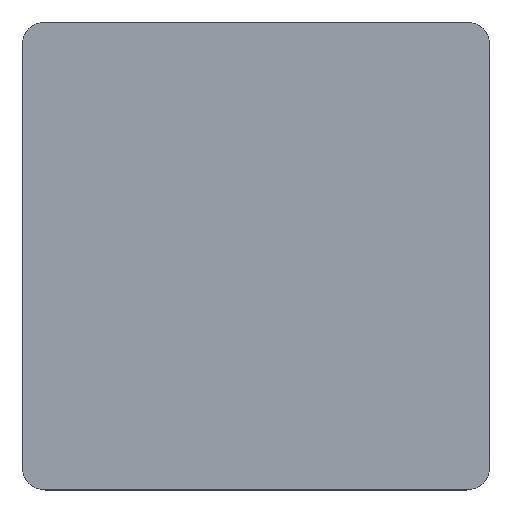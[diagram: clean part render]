
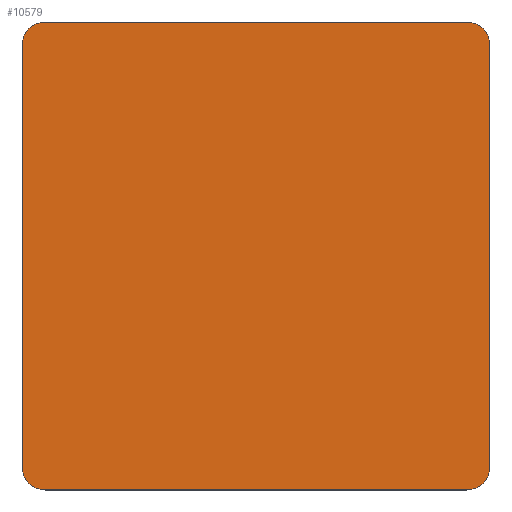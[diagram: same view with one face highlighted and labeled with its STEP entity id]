
A CAD part, top view. The second image highlights one B-rep face of the part: STEP entity #10579.
In plain terms, the highlighted planar face has unit normal (0, 0, 1).
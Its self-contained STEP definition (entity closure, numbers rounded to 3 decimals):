
#10504=CARTESIAN_POINT('',(0.,0.,20.));
#10505=DIRECTION('',(1.,0.,0.));
#10506=DIRECTION('',(0.,0.,1.));
#10507=AXIS2_PLACEMENT_3D('',#10504,#10506,#10505);
#10508=PLANE('',#10507);
#10509=CARTESIAN_POINT('',(-315.,-350.,20.));
#10510=VERTEX_POINT('',#10509);
#10511=CARTESIAN_POINT('',(315.,-350.,20.));
#10512=VERTEX_POINT('',#10511);
#10513=CARTESIAN_POINT('',(-315.,-350.,20.));
#10514=DIRECTION('',(1.,0.,0.));
#10515=VECTOR('',#10514,630.);
#10516=LINE('',#10513,#10515);
#10517=EDGE_CURVE('',#10510,#10512,#10516,.T.);
#10518=ORIENTED_EDGE('E9',*,*,#10517,.T.);
#10519=CARTESIAN_POINT('',(350.,-315.,20.));
#10520=VERTEX_POINT('',#10519);
#10521=CARTESIAN_POINT('',(315.,-315.,20.));
#10522=DIRECTION('',(0.,-1.,0.));
#10523=DIRECTION('',(0.,0.,1.));
#10524=AXIS2_PLACEMENT_3D('',#10521,#10523,#10522);
#10525=CIRCLE('',#10524,35.);
#10526=EDGE_CURVE('',#10512,#10520,#10525,.T.);
#10527=ORIENTED_EDGE('E10',*,*,#10526,.T.);
#10528=CARTESIAN_POINT('',(350.,315.,20.));
#10529=VERTEX_POINT('',#10528);
#10530=CARTESIAN_POINT('',(350.,-315.,20.));
#10531=DIRECTION('',(0.,1.,0.));
#10532=VECTOR('',#10531,630.);
#10533=LINE('',#10530,#10532);
#10534=EDGE_CURVE('',#10520,#10529,#10533,.T.);
#10535=ORIENTED_EDGE('E11',*,*,#10534,.T.);
#10536=CARTESIAN_POINT('',(315.,350.,20.));
#10537=VERTEX_POINT('',#10536);
#10538=CARTESIAN_POINT('',(315.,315.,20.));
#10539=DIRECTION('',(1.,0.,0.));
#10540=DIRECTION('',(0.,0.,1.));
#10541=AXIS2_PLACEMENT_3D('',#10538,#10540,#10539);
#10542=CIRCLE('',#10541,35.);
#10543=EDGE_CURVE('',#10529,#10537,#10542,.T.);
#10544=ORIENTED_EDGE('E12',*,*,#10543,.T.);
#10545=CARTESIAN_POINT('',(-315.,350.,20.));
#10546=VERTEX_POINT('',#10545);
#10547=CARTESIAN_POINT('',(315.,350.,20.));
#10548=DIRECTION('',(-1.,0.,0.));
#10549=VECTOR('',#10548,630.);
#10550=LINE('',#10547,#10549);
#10551=EDGE_CURVE('',#10537,#10546,#10550,.T.);
#10552=ORIENTED_EDGE('E13',*,*,#10551,.T.);
#10553=CARTESIAN_POINT('',(-350.,315.,20.));
#10554=VERTEX_POINT('',#10553);
#10555=CARTESIAN_POINT('',(-315.,315.,20.));
#10556=DIRECTION('',(0.,1.,0.));
#10557=DIRECTION('',(0.,0.,1.));
#10558=AXIS2_PLACEMENT_3D('',#10555,#10557,#10556);
#10559=CIRCLE('',#10558,35.);
#10560=EDGE_CURVE('',#10546,#10554,#10559,.T.);
#10561=ORIENTED_EDGE('E14',*,*,#10560,.T.);
#10562=CARTESIAN_POINT('',(-350.,-315.,20.));
#10563=VERTEX_POINT('',#10562);
#10564=CARTESIAN_POINT('',(-350.,315.,20.));
#10565=DIRECTION('',(0.,-1.,0.));
#10566=VECTOR('',#10565,630.);
#10567=LINE('',#10564,#10566);
#10568=EDGE_CURVE('',#10554,#10563,#10567,.T.);
#10569=ORIENTED_EDGE('E15',*,*,#10568,.T.);
#10570=CARTESIAN_POINT('',(-315.,-315.,20.));
#10571=DIRECTION('',(-1.,0.,0.));
#10572=DIRECTION('',(-0.,0.,1.));
#10573=AXIS2_PLACEMENT_3D('',#10570,#10572,#10571);
#10574=CIRCLE('',#10573,35.);
#10575=EDGE_CURVE('',#10563,#10510,#10574,.T.);
#10576=ORIENTED_EDGE('E16',*,*,#10575,.T.);
#10577=EDGE_LOOP('',(#10518,#10527,#10535,#10544,#10552,#10561,#10569,#10576));
#10578=FACE_OUTER_BOUND('',#10577,.T.);
#10579=ADVANCED_FACE('F2',(#10578),#10508,.T.);
